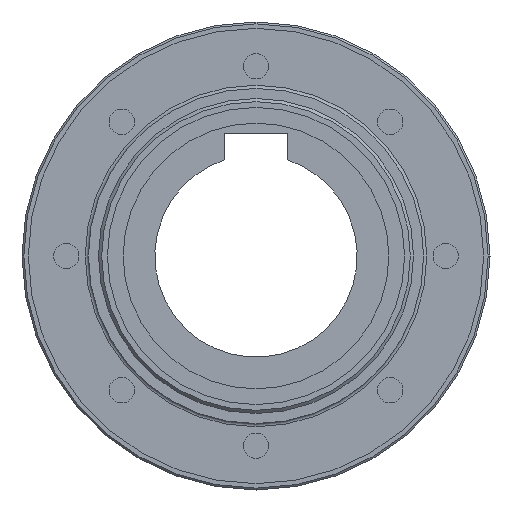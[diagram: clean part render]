
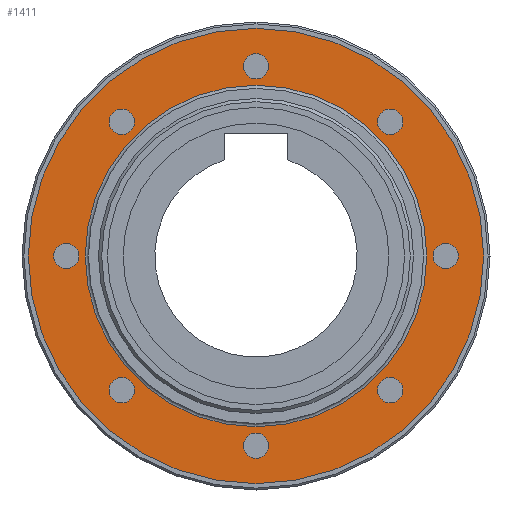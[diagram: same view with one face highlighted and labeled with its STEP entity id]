
A CAD part, left-side view. The second image highlights one B-rep face of the part: STEP entity #1411.
In plain terms, the highlighted planar face has unit normal (-1, 0, 0).
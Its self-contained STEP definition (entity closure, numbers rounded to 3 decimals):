
#39=PLANE('',#1634);
#77=FACE_BOUND('',#241,.T.);
#78=FACE_BOUND('',#242,.T.);
#79=FACE_BOUND('',#243,.T.);
#80=FACE_BOUND('',#244,.T.);
#81=FACE_BOUND('',#245,.T.);
#82=FACE_BOUND('',#246,.T.);
#83=FACE_BOUND('',#247,.T.);
#84=FACE_BOUND('',#248,.T.);
#85=FACE_BOUND('',#249,.T.);
#153=FACE_OUTER_BOUND('',#240,.T.);
#240=EDGE_LOOP('',(#1204,#1205));
#241=EDGE_LOOP('',(#1206,#1207));
#242=EDGE_LOOP('',(#1208,#1209));
#243=EDGE_LOOP('',(#1210,#1211));
#244=EDGE_LOOP('',(#1212,#1213));
#245=EDGE_LOOP('',(#1214,#1215));
#246=EDGE_LOOP('',(#1216,#1217));
#247=EDGE_LOOP('',(#1218,#1219));
#248=EDGE_LOOP('',(#1220,#1221));
#249=EDGE_LOOP('',(#1222,#1223));
#464=CIRCLE('',#1501,2.);
#467=CIRCLE('',#1504,2.);
#468=CIRCLE('',#1506,2.);
#471=CIRCLE('',#1509,2.);
#472=CIRCLE('',#1511,2.);
#475=CIRCLE('',#1514,2.);
#476=CIRCLE('',#1516,2.);
#479=CIRCLE('',#1519,2.);
#480=CIRCLE('',#1521,2.);
#483=CIRCLE('',#1524,2.);
#484=CIRCLE('',#1526,2.);
#487=CIRCLE('',#1529,2.);
#488=CIRCLE('',#1531,2.);
#491=CIRCLE('',#1534,2.);
#492=CIRCLE('',#1536,2.);
#495=CIRCLE('',#1539,2.);
#535=CIRCLE('',#1592,27.);
#536=CIRCLE('',#1593,27.);
#538=CIRCLE('',#1596,36.);
#541=CIRCLE('',#1599,36.);
#603=VERTEX_POINT('',#2352);
#604=VERTEX_POINT('',#2353);
#607=VERTEX_POINT('',#2362);
#608=VERTEX_POINT('',#2363);
#611=VERTEX_POINT('',#2372);
#612=VERTEX_POINT('',#2373);
#615=VERTEX_POINT('',#2382);
#616=VERTEX_POINT('',#2383);
#619=VERTEX_POINT('',#2392);
#620=VERTEX_POINT('',#2393);
#623=VERTEX_POINT('',#2402);
#624=VERTEX_POINT('',#2403);
#627=VERTEX_POINT('',#2412);
#628=VERTEX_POINT('',#2413);
#631=VERTEX_POINT('',#2422);
#632=VERTEX_POINT('',#2423);
#674=VERTEX_POINT('',#2534);
#675=VERTEX_POINT('',#2535);
#676=VERTEX_POINT('',#2540);
#677=VERTEX_POINT('',#2541);
#769=EDGE_CURVE('',#603,#604,#464,.T.);
#773=EDGE_CURVE('',#604,#603,#467,.T.);
#774=EDGE_CURVE('',#607,#608,#468,.T.);
#778=EDGE_CURVE('',#608,#607,#471,.T.);
#779=EDGE_CURVE('',#611,#612,#472,.T.);
#783=EDGE_CURVE('',#612,#611,#475,.T.);
#784=EDGE_CURVE('',#615,#616,#476,.T.);
#788=EDGE_CURVE('',#616,#615,#479,.T.);
#789=EDGE_CURVE('',#619,#620,#480,.T.);
#793=EDGE_CURVE('',#620,#619,#483,.T.);
#794=EDGE_CURVE('',#623,#624,#484,.T.);
#798=EDGE_CURVE('',#624,#623,#487,.T.);
#799=EDGE_CURVE('',#627,#628,#488,.T.);
#803=EDGE_CURVE('',#628,#627,#491,.T.);
#804=EDGE_CURVE('',#631,#632,#492,.T.);
#808=EDGE_CURVE('',#632,#631,#495,.T.);
#860=EDGE_CURVE('',#674,#675,#535,.T.);
#861=EDGE_CURVE('',#675,#674,#536,.T.);
#863=EDGE_CURVE('',#676,#677,#538,.T.);
#867=EDGE_CURVE('',#677,#676,#541,.T.);
#1204=ORIENTED_EDGE('',*,*,#863,.F.);
#1205=ORIENTED_EDGE('',*,*,#867,.F.);
#1206=ORIENTED_EDGE('',*,*,#769,.F.);
#1207=ORIENTED_EDGE('',*,*,#773,.F.);
#1208=ORIENTED_EDGE('',*,*,#774,.F.);
#1209=ORIENTED_EDGE('',*,*,#778,.F.);
#1210=ORIENTED_EDGE('',*,*,#779,.F.);
#1211=ORIENTED_EDGE('',*,*,#783,.F.);
#1212=ORIENTED_EDGE('',*,*,#784,.F.);
#1213=ORIENTED_EDGE('',*,*,#788,.F.);
#1214=ORIENTED_EDGE('',*,*,#789,.F.);
#1215=ORIENTED_EDGE('',*,*,#793,.F.);
#1216=ORIENTED_EDGE('',*,*,#794,.F.);
#1217=ORIENTED_EDGE('',*,*,#798,.F.);
#1218=ORIENTED_EDGE('',*,*,#799,.F.);
#1219=ORIENTED_EDGE('',*,*,#803,.F.);
#1220=ORIENTED_EDGE('',*,*,#804,.F.);
#1221=ORIENTED_EDGE('',*,*,#808,.F.);
#1222=ORIENTED_EDGE('',*,*,#860,.T.);
#1223=ORIENTED_EDGE('',*,*,#861,.T.);
#1411=ADVANCED_FACE('',(#153,#77,#78,#79,#80,#81,#82,#83,#84,#85),#39,.F.);
#1501=AXIS2_PLACEMENT_3D('',#2354,#1766,#1767);
#1504=AXIS2_PLACEMENT_3D('',#2360,#1773,#1774);
#1506=AXIS2_PLACEMENT_3D('',#2364,#1777,#1778);
#1509=AXIS2_PLACEMENT_3D('',#2370,#1784,#1785);
#1511=AXIS2_PLACEMENT_3D('',#2374,#1788,#1789);
#1514=AXIS2_PLACEMENT_3D('',#2380,#1795,#1796);
#1516=AXIS2_PLACEMENT_3D('',#2384,#1799,#1800);
#1519=AXIS2_PLACEMENT_3D('',#2390,#1806,#1807);
#1521=AXIS2_PLACEMENT_3D('',#2394,#1810,#1811);
#1524=AXIS2_PLACEMENT_3D('',#2400,#1817,#1818);
#1526=AXIS2_PLACEMENT_3D('',#2404,#1821,#1822);
#1529=AXIS2_PLACEMENT_3D('',#2410,#1828,#1829);
#1531=AXIS2_PLACEMENT_3D('',#2414,#1832,#1833);
#1534=AXIS2_PLACEMENT_3D('',#2420,#1839,#1840);
#1536=AXIS2_PLACEMENT_3D('',#2424,#1843,#1844);
#1539=AXIS2_PLACEMENT_3D('',#2430,#1850,#1851);
#1592=AXIS2_PLACEMENT_3D('',#2536,#1968,#1969);
#1593=AXIS2_PLACEMENT_3D('',#2537,#1970,#1971);
#1596=AXIS2_PLACEMENT_3D('',#2542,#1976,#1977);
#1599=AXIS2_PLACEMENT_3D('',#2548,#1983,#1984);
#1634=AXIS2_PLACEMENT_3D('',#2621,#2067,#2068);
#1766=DIRECTION('center_axis',(-1.,0.,0.));
#1767=DIRECTION('ref_axis',(0.,1.,0.));
#1773=DIRECTION('center_axis',(-1.,0.,0.));
#1774=DIRECTION('ref_axis',(0.,1.,0.));
#1777=DIRECTION('center_axis',(-1.,0.,0.));
#1778=DIRECTION('ref_axis',(0.,1.,0.));
#1784=DIRECTION('center_axis',(-1.,0.,0.));
#1785=DIRECTION('ref_axis',(0.,1.,0.));
#1788=DIRECTION('center_axis',(-1.,0.,0.));
#1789=DIRECTION('ref_axis',(0.,1.,0.));
#1795=DIRECTION('center_axis',(-1.,0.,0.));
#1796=DIRECTION('ref_axis',(0.,1.,0.));
#1799=DIRECTION('center_axis',(-1.,0.,0.));
#1800=DIRECTION('ref_axis',(0.,1.,0.));
#1806=DIRECTION('center_axis',(-1.,0.,0.));
#1807=DIRECTION('ref_axis',(0.,1.,0.));
#1810=DIRECTION('center_axis',(-1.,0.,0.));
#1811=DIRECTION('ref_axis',(0.,1.,0.));
#1817=DIRECTION('center_axis',(-1.,0.,0.));
#1818=DIRECTION('ref_axis',(0.,1.,0.));
#1821=DIRECTION('center_axis',(-1.,0.,0.));
#1822=DIRECTION('ref_axis',(0.,1.,0.));
#1828=DIRECTION('center_axis',(-1.,0.,0.));
#1829=DIRECTION('ref_axis',(0.,1.,0.));
#1832=DIRECTION('center_axis',(-1.,0.,0.));
#1833=DIRECTION('ref_axis',(0.,1.,0.));
#1839=DIRECTION('center_axis',(-1.,0.,0.));
#1840=DIRECTION('ref_axis',(0.,1.,0.));
#1843=DIRECTION('center_axis',(-1.,0.,0.));
#1844=DIRECTION('ref_axis',(0.,1.,0.));
#1850=DIRECTION('center_axis',(-1.,0.,0.));
#1851=DIRECTION('ref_axis',(0.,1.,0.));
#1968=DIRECTION('center_axis',(1.,0.,0.));
#1969=DIRECTION('ref_axis',(0.,-1.,0.));
#1970=DIRECTION('center_axis',(1.,0.,0.));
#1971=DIRECTION('ref_axis',(0.,-1.,0.));
#1976=DIRECTION('center_axis',(1.,0.,0.));
#1977=DIRECTION('ref_axis',(0.,-1.,0.));
#1983=DIRECTION('center_axis',(1.,0.,0.));
#1984=DIRECTION('ref_axis',(0.,-1.,0.));
#2067=DIRECTION('center_axis',(1.,0.,0.));
#2068=DIRECTION('ref_axis',(0.,0.,
-1.));
#2352=CARTESIAN_POINT('',(7.,-19.213,-21.213));
#2353=CARTESIAN_POINT('',(7.,-23.213,-21.213));
#2354=CARTESIAN_POINT('Origin',(7.,-21.213,-21.213));
#2360=CARTESIAN_POINT('Origin',(7.,-21.213,-21.213));
#2362=CARTESIAN_POINT('',(7.,-28.,0.));
#2363=CARTESIAN_POINT('',(7.,-32.,0.));
#2364=CARTESIAN_POINT('Origin',(7.,-30.,0.));
#2370=CARTESIAN_POINT('Origin',(7.,-30.,0.));
#2372=CARTESIAN_POINT('',(7.,-19.213,21.213));
#2373=CARTESIAN_POINT('',(7.,-23.213,21.213));
#2374=CARTESIAN_POINT('Origin',(7.,-21.213,21.213));
#2380=CARTESIAN_POINT('Origin',(7.,-21.213,21.213));
#2382=CARTESIAN_POINT('',(7.,2.,30.));
#2383=CARTESIAN_POINT('',(7.,-2.,30.));
#2384=CARTESIAN_POINT('Origin',(7.,0.,30.));
#2390=CARTESIAN_POINT('Origin',(7.,0.,30.));
#2392=CARTESIAN_POINT('',(7.,23.213,21.213));
#2393=CARTESIAN_POINT('',(7.,19.213,21.213));
#2394=CARTESIAN_POINT('Origin',(7.,21.213,21.213));
#2400=CARTESIAN_POINT('Origin',(7.,21.213,21.213));
#2402=CARTESIAN_POINT('',(7.,32.,0.));
#2403=CARTESIAN_POINT('',(7.,28.,0.));
#2404=CARTESIAN_POINT('Origin',(7.,30.,0.));
#2410=CARTESIAN_POINT('Origin',(7.,30.,0.));
#2412=CARTESIAN_POINT('',(7.,23.213,-21.213));
#2413=CARTESIAN_POINT('',(7.,19.213,-21.213));
#2414=CARTESIAN_POINT('Origin',(7.,21.213,-21.213));
#2420=CARTESIAN_POINT('Origin',(7.,21.213,-21.213));
#2422=CARTESIAN_POINT('',(7.,2.,-30.));
#2423=CARTESIAN_POINT('',(7.,-2.,-30.));
#2424=CARTESIAN_POINT('Origin',(7.,0.,
-30.));
#2430=CARTESIAN_POINT('Origin',(7.,0.,
-30.));
#2534=CARTESIAN_POINT('',(7.,-27.,0.));
#2535=CARTESIAN_POINT('',(7.,27.,0.));
#2536=CARTESIAN_POINT('Origin',(7.,0.,0.));
#2537=CARTESIAN_POINT('Origin',(7.,0.,0.));
#2540=CARTESIAN_POINT('',(7.,-36.,0.));
#2541=CARTESIAN_POINT('',(7.,36.,0.));
#2542=CARTESIAN_POINT('Origin',(7.,0.,0.));
#2548=CARTESIAN_POINT('Origin',(7.,0.,0.));
#2621=CARTESIAN_POINT('Origin',(7.,0.,24.633));
